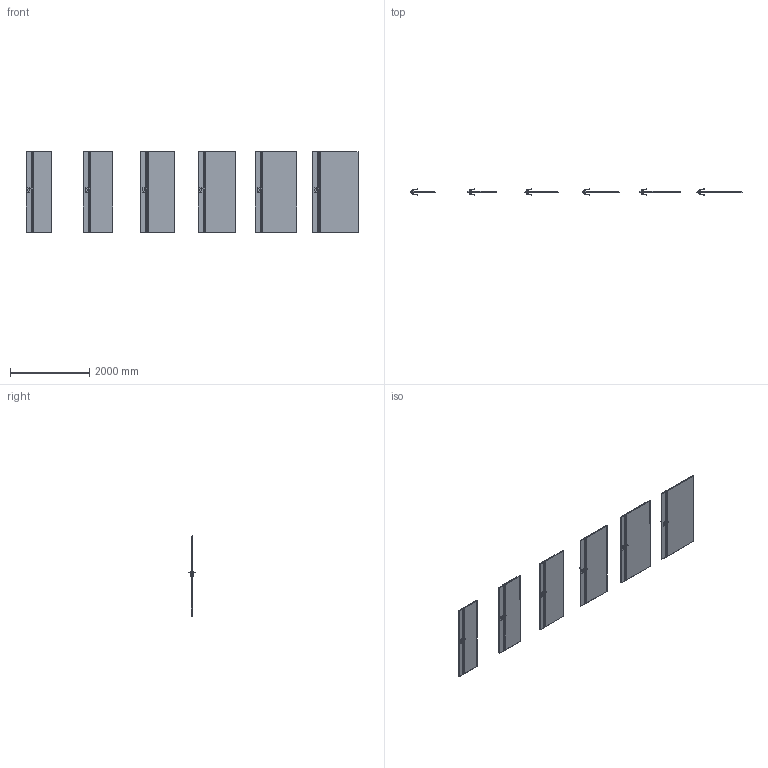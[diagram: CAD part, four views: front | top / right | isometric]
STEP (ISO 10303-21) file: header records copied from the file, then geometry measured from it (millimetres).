
FILE_DESCRIPTION(/* description */ (''),/* implementation_level */ '2;1');
FILE_NAME(/* name */ '049679_A_2-Skrzydło VECTOR B_ polska norma _PN__ przylgowe..stp',/* time_stamp */ '2024-02-07T11:07:54+01:00',/* author */ (''),/* organization */ (''),/* preprocessor_version */ 'ST-DEVELOPER v16',/* originating_system */ 'SIEMENS PLM Software NX 11.0',/* authorisation */ '');
FILE_SCHEMA (('AUTOMOTIVE_DESIGN { 1 0 10303 214 3 1 1 1 }'));
Length unit declared in the file: millimetre
Products named in the file (1): bkni2F140504h6l3
Bounding box: 8394 x 153.27 x 2030 mm (x, y, z)
Volume: 418256633.8 mm3; surface area: 23493832.5 mm2
Topology: 30 solids, 30 shells, 1368 faces, 3396 edges, 1968 vertices
Faces by surface type: plane 600, cylinder 408, bspline 192, sphere 168
Entity records: 45892 total; most frequent: CARTESIAN_POINT 14989, ORIENTED_EDGE 6456, DIRECTION 6230, EDGE_CURVE 3228, AXIS2_PLACEMENT_3D 2185, VERTEX_POINT 1968, LINE 1860, VECTOR 1860
